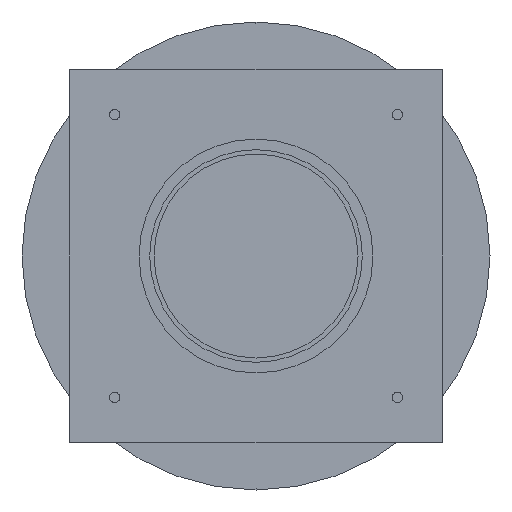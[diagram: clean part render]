
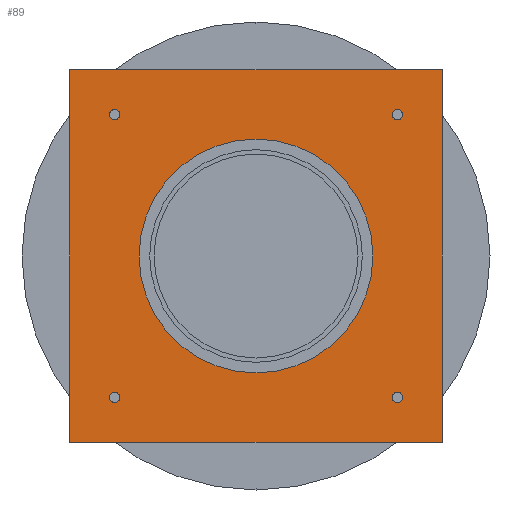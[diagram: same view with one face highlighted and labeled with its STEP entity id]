
A CAD part, front view. The second image highlights one B-rep face of the part: STEP entity #89.
In plain terms, the highlighted planar face has unit normal (0, -1, 0).
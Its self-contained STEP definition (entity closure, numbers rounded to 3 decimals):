
#89=ADVANCED_FACE('',(#187,#188,#189,#190,#191,#192),#193,.F.);
#187=FACE_OUTER_BOUND('',#298,.T.);
#188=FACE_BOUND('',#299,.T.);
#189=FACE_BOUND('',#300,.T.);
#190=FACE_BOUND('',#301,.T.);
#191=FACE_BOUND('',#302,.T.);
#192=FACE_BOUND('',#303,.T.);
#193=PLANE('',#304);
#298=EDGE_LOOP('',(#613,#614,#615,#616));
#299=EDGE_LOOP('',(#617,#618));
#300=EDGE_LOOP('',(#619,#620));
#301=EDGE_LOOP('',(#621,#622));
#302=EDGE_LOOP('',(#623,#624));
#303=EDGE_LOOP('',(#625,#626));
#304=AXIS2_PLACEMENT_3D('',#627,#628,#629);
#613=ORIENTED_EDGE('',*,*,#759,.T.);
#614=ORIENTED_EDGE('',*,*,#756,.F.);
#615=ORIENTED_EDGE('',*,*,#760,.F.);
#616=ORIENTED_EDGE('',*,*,#754,.F.);
#617=ORIENTED_EDGE('',*,*,#713,.T.);
#618=ORIENTED_EDGE('',*,*,#729,.T.);
#619=ORIENTED_EDGE('',*,*,#743,.T.);
#620=ORIENTED_EDGE('',*,*,#682,.T.);
#621=ORIENTED_EDGE('',*,*,#745,.T.);
#622=ORIENTED_EDGE('',*,*,#678,.T.);
#623=ORIENTED_EDGE('',*,*,#747,.T.);
#624=ORIENTED_EDGE('',*,*,#674,.T.);
#625=ORIENTED_EDGE('',*,*,#749,.T.);
#626=ORIENTED_EDGE('',*,*,#670,.T.);
#627=CARTESIAN_POINT('',(0.0,0.0,0.0));
#628=DIRECTION('',(0.0,1.0,0.0));
#629=DIRECTION('',(1.0,0.0,-0.0));
#670=EDGE_CURVE('',#774,#778,#780,.T.);
#674=EDGE_CURVE('',#782,#786,#788,.T.);
#678=EDGE_CURVE('',#790,#794,#796,.T.);
#682=EDGE_CURVE('',#798,#802,#804,.T.);
#713=EDGE_CURVE('',#863,#860,#864,.T.);
#729=EDGE_CURVE('',#860,#863,#889,.T.);
#743=EDGE_CURVE('',#802,#798,#903,.T.);
#745=EDGE_CURVE('',#794,#790,#905,.T.);
#747=EDGE_CURVE('',#786,#782,#907,.T.);
#749=EDGE_CURVE('',#778,#774,#909,.T.);
#754=EDGE_CURVE('',#916,#911,#918,.T.);
#756=EDGE_CURVE('',#920,#922,#923,.T.);
#759=EDGE_CURVE('',#916,#922,#927,.T.);
#760=EDGE_CURVE('',#911,#920,#928,.T.);
#774=VERTEX_POINT('',#942);
#778=VERTEX_POINT('',#947);
#780=CIRCLE('',#950,6.0);
#782=VERTEX_POINT('',#952);
#786=VERTEX_POINT('',#957);
#788=CIRCLE('',#960,6.0);
#790=VERTEX_POINT('',#962);
#794=VERTEX_POINT('',#967);
#796=CIRCLE('',#970,6.0);
#798=VERTEX_POINT('',#972);
#802=VERTEX_POINT('',#977);
#804=CIRCLE('',#980,6.0);
#860=VERTEX_POINT('',#1048);
#863=VERTEX_POINT('',#1052);
#864=CIRCLE('',#1053,136.4);
#889=CIRCLE('',#1083,136.4);
#903=CIRCLE('',#1097,6.0);
#905=CIRCLE('',#1099,6.0);
#907=CIRCLE('',#1101,6.0);
#909=CIRCLE('',#1103,6.0);
#911=VERTEX_POINT('',#1105);
#916=VERTEX_POINT('',#1112);
#918=LINE('',#1115,#1116);
#920=VERTEX_POINT('',#1118);
#922=VERTEX_POINT('',#1121);
#923=LINE('',#1122,#1123);
#927=LINE('',#1129,#1130);
#928=LINE('',#1131,#1132);
#942=CARTESIAN_POINT('',(-159.0,0.0,-165.0));
#947=CARTESIAN_POINT('',(-171.0,0.0,-165.0));
#950=AXIS2_PLACEMENT_3D('',#1160,#1161,#1162);
#952=CARTESIAN_POINT('',(171.0,0.0,-165.0));
#957=CARTESIAN_POINT('',(159.0,0.0,-165.0));
#960=AXIS2_PLACEMENT_3D('',#1168,#1169,#1170);
#962=CARTESIAN_POINT('',(-159.0,0.0,165.0));
#967=CARTESIAN_POINT('',(-171.0,0.0,165.0));
#970=AXIS2_PLACEMENT_3D('',#1176,#1177,#1178);
#972=CARTESIAN_POINT('',(171.0,0.0,165.0));
#977=CARTESIAN_POINT('',(159.0,0.0,165.0));
#980=AXIS2_PLACEMENT_3D('',#1184,#1185,#1186);
#1048=CARTESIAN_POINT('',(136.4,0.0,0.));
#1052=CARTESIAN_POINT('',(-136.4,0.0,0.));
#1053=AXIS2_PLACEMENT_3D('',#1251,#1252,#1253);
#1083=AXIS2_PLACEMENT_3D('',#1289,#1290,#1291);
#1097=AXIS2_PLACEMENT_3D('',#1331,#1332,#1333);
#1099=AXIS2_PLACEMENT_3D('',#1337,#1338,#1339);
#1101=AXIS2_PLACEMENT_3D('',#1343,#1344,#1345);
#1103=AXIS2_PLACEMENT_3D('',#1349,#1350,#1351);
#1105=CARTESIAN_POINT('',(217.5,0.0,217.5));
#1112=CARTESIAN_POINT('',(-217.5,0.0,217.5));
#1115=CARTESIAN_POINT('',(0.0,0.0,217.5));
#1116=VECTOR('',#1358,1.0);
#1118=CARTESIAN_POINT('',(217.5,0.0,-217.5));
#1121=CARTESIAN_POINT('',(-217.5,0.0,-217.5));
#1122=CARTESIAN_POINT('',(0.0,0.0,-217.5));
#1123=VECTOR('',#1360,1.0);
#1129=CARTESIAN_POINT('',(-217.5,0.0,0.0));
#1130=VECTOR('',#1363,1.0);
#1131=CARTESIAN_POINT('',(217.5,0.0,0.0));
#1132=VECTOR('',#1364,1.0);
#1160=CARTESIAN_POINT('',(-165.0,0.0,-165.0));
#1161=DIRECTION('',(-0.0,1.0,0.0));
#1162=DIRECTION('',(1.0,0.0,0.0));
#1168=CARTESIAN_POINT('',(165.0,0.0,-165.0));
#1169=DIRECTION('',(-0.0,1.0,0.0));
#1170=DIRECTION('',(1.0,0.0,0.0));
#1176=CARTESIAN_POINT('',(-165.0,0.0,165.0));
#1177=DIRECTION('',(-0.0,1.0,0.0));
#1178=DIRECTION('',(1.0,0.0,0.0));
#1184=CARTESIAN_POINT('',(165.0,0.0,165.0));
#1185=DIRECTION('',(-0.0,1.0,0.0));
#1186=DIRECTION('',(1.0,0.0,0.0));
#1251=CARTESIAN_POINT('',(0.0,0.0,0.0));
#1252=DIRECTION('',(-0.0,1.0,0.0));
#1253=DIRECTION('',(1.0,0.0,0.0));
#1289=CARTESIAN_POINT('',(0.0,0.0,0.0));
#1290=DIRECTION('',(-0.0,1.0,0.0));
#1291=DIRECTION('',(1.0,0.0,0.0));
#1331=CARTESIAN_POINT('',(165.0,0.0,165.0));
#1332=DIRECTION('',(-0.0,1.0,0.0));
#1333=DIRECTION('',(1.0,0.0,0.0));
#1337=CARTESIAN_POINT('',(-165.0,0.0,165.0));
#1338=DIRECTION('',(-0.0,1.0,0.0));
#1339=DIRECTION('',(1.0,0.0,0.0));
#1343=CARTESIAN_POINT('',(165.0,0.0,-165.0));
#1344=DIRECTION('',(-0.0,1.0,0.0));
#1345=DIRECTION('',(1.0,0.0,0.0));
#1349=CARTESIAN_POINT('',(-165.0,0.0,-165.0));
#1350=DIRECTION('',(-0.0,1.0,0.0));
#1351=DIRECTION('',(1.0,0.0,0.0));
#1358=DIRECTION('',(1.0,0.0,0.0));
#1360=DIRECTION('',(-1.0,0.0,0.0));
#1363=DIRECTION('',(0.0,0.0,-1.0));
#1364=DIRECTION('',(0.0,0.0,-1.0));
